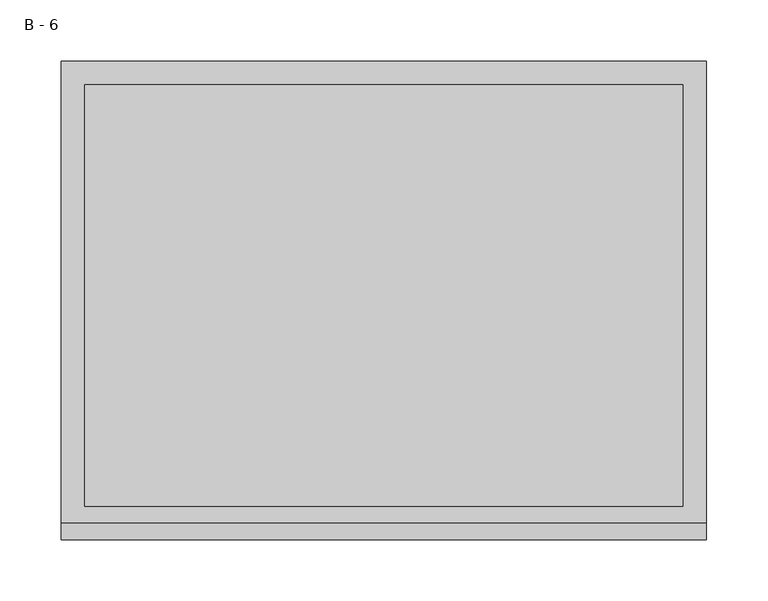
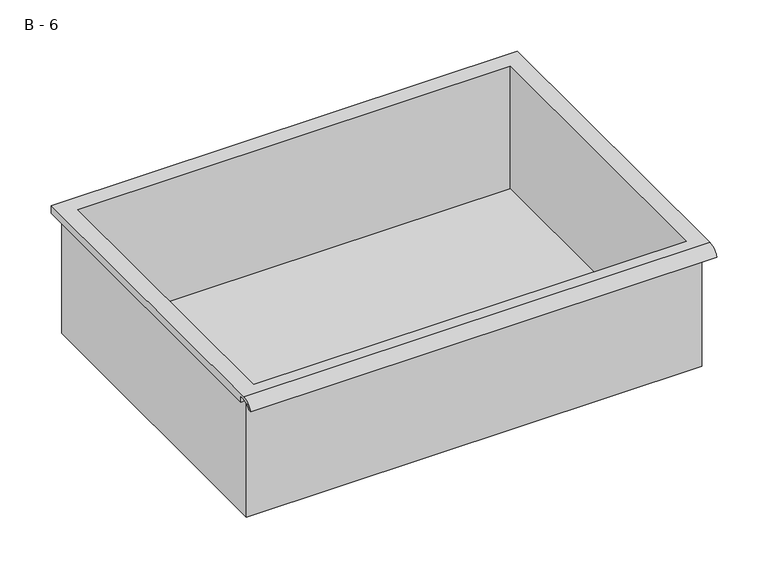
"""IFC4 building model written with IfcOpenShell, lengths in millimetres: furniture geometry, HermanMiller_CoStruc_CO207_Drawer : B - 6."""

from ifc_helpers import new_model, si_unit, frame, origin, place, context, project, spatial, polyline, circle_curve, source, transform, mapped, element, save
from ifc_brep_helpers import plane_surface, cylinder_surface, revolved_surface, advanced_brep


def b_6_bdab6ed6(model_context):
    return source(origin(), model_context, "Body", "AdvancedBrep", [
        advanced_brep(
        [(-257.1076517, -176.2125, 582.6252), (257.2423483, -176.2125, 582.6252), (257.2423483, -176.2125, 722.3252), (263.5923483, -176.2125, 722.3252), (263.5923483, -176.2125, 728.6323341), (-263.4576517, -176.2125, 728.6323341), (-263.4576517, -176.2125, 722.3252), (-257.1076517, -176.2125, 722.3252), (257.2423483, 185.7375, 582.6252), (-257.1076517, 185.7375, 582.6252), (-257.1076517, 185.7375, 722.3252), (257.2423483, 185.7375, 722.3252), (263.5923483, -181.6070544, 731.8502), (263.5923483, 195.2625, 731.8502), (-263.4576517, 195.2625, 731.8502), (-263.4576517, -181.6070544, 731.8502), (244.5423483, -168.275, 731.8502), (-244.4076517, -168.275, 731.8502), (-244.4076517, 176.2125, 731.8502), (244.5423483, 176.2125, 731.8502), (263.5923483, -195.2625, 722.3252), (263.5923483, -191.8280601, 722.3252), (263.5923483, -180.4714815, 728.6323341), (263.5923483, 195.2625, 722.3252), (-263.4576517, 195.2625, 722.3252), (-263.4576517, -180.4714815, 728.6323341), (-263.4576517, -191.8280601, 722.3252), (-263.4576517, -195.2625, 722.3252), (-244.4076517, -168.275, 585.6513719), (244.5423483, -168.275, 585.6513719), (244.5423483, 176.2125, 585.6513719), (-244.4076517, 176.2125, 585.6513719)],
        [
            (0, 1),
            (1, 2),
            (2, 3),
            (3, 4),
            (4, 5),
            (5, 6),
            (6, 7),
            (7, 0),
            (8, 9),
            (9, 10),
            (10, 11),
            (11, 8),
            (0, 9),
            (8, 1),
            (11, 2),
            (12, 13),
            (13, 14),
            (14, 15),
            (15, 12),
            (16, 17),
            (17, 18),
            (18, 19),
            (19, 16),
            (7, 10),
            (12, 20, circle_curve(frame((263.5923483, -181.6070544, 717.2991859), z_axis=(1.0, 0.0, 0.0), x_axis=(0.0, 1.0, 0.0)), 14.5510141)),
            (20, 21),
            (21, 22, circle_curve(frame((263.5923483, -181.6070544, 717.2991859), z_axis=(-1.0, 0.0, 0.0), x_axis=(0.0, 1.0, 0.0)), 11.3898979)),
            (22, 4),
            (3, 23),
            (23, 13),
            (14, 24),
            (24, 6),
            (5, 25),
            (25, 26, circle_curve(frame((-263.4576517, -181.6070544, 717.2991859), z_axis=(1.0, 0.0, 0.0), x_axis=(0.0, 1.0, 0.0)), 11.3898979)),
            (26, 27),
            (27, 15, circle_curve(frame((-263.4576517, -181.6070544, 717.2991859), z_axis=(-1.0, 0.0, 0.0), x_axis=(0.0, 1.0, 0.0)), 14.5510141)),
            (27, 20),
            (26, 21),
            (25, 22),
            (24, 23),
            (28, 29),
            (29, 30),
            (30, 31),
            (31, 28),
            (28, 17),
            (16, 29),
            (19, 30),
            (18, 31),
        ],
        [
            plane_surface(frame((257.2423483, -176.2125, 582.6252), z_axis=(0.0, -1.0, 0.0), x_axis=(1.0, 0.0, 0.0))),
            plane_surface(frame((257.2423483, 185.7375, 582.6252), z_axis=(0.0, 1.0, 0.0), x_axis=(-1.0, 0.0, 0.0))),
            plane_surface(frame((-257.1076517, -176.2125, 582.6252), z_axis=(0.0, 0.0, -1.0), x_axis=(0.0, 1.0, 0.0))),
            plane_surface(frame((257.2423483, -176.2125, 582.6252), z_axis=(1.0, 0.0, 0.0), x_axis=(0.0, 1.0, 0.0))),
            plane_surface(frame((257.2423483, -176.2125, 731.8502), z_axis=(0.0, 0.0, 1.0), x_axis=(0.0, 1.0, 0.0))),
            plane_surface(frame((-257.1076517, -176.2125, 731.8502), z_axis=(-1.0, 0.0, 0.0), x_axis=(0.0, 1.0, 0.0))),
            plane_surface(frame((263.5923483, 195.2625, 731.8502), z_axis=(1.0, 0.0, 0.0), x_axis=(0.0, -1.0, 0.0))),
            plane_surface(frame((-263.4576517, 195.2625, 731.8502), z_axis=(-1.0, 0.0, 0.0), x_axis=(0.0, 1.0, 0.0))),
            cylinder_surface(frame((-263.4576517, -181.6070544, 717.2991859), z_axis=(1.0, 0.0, 0.0), x_axis=(0.0, 1.0, 0.0)), 14.5510141),
            plane_surface(frame((263.5923483, -195.2625, 722.3252), z_axis=(0.0, -7.251821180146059e-12, -1.0), x_axis=(-1.0, 0.0, 0.0))),
            revolved_surface(polyline([(-263.4576517, -170.21715650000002, 717.2991859), (263.59234829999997, -170.21715650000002, 717.2991859)]), (-263.4576517, -181.6070544, 717.2991859), (-1.0, 0.0, 0.0)),
            plane_surface(frame((263.5923483, -180.4714815, 728.6323341), z_axis=(0.0, -1.7956755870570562e-11, -1.0), x_axis=(-1.0, 0.0, 0.0))),
            plane_surface(frame((263.5923483, -176.2125, 722.3252), z_axis=(0.0, 0.0, -1.0), x_axis=(-1.0, 0.0, 0.0))),
            plane_surface(frame((263.5923483, 195.2625, 722.3252), z_axis=(0.0, 1.0, 0.0), x_axis=(-1.0, 0.0, 0.0))),
            plane_surface(frame((244.5423483, -168.275, 585.6513719), z_axis=(0.0, 0.0, 1.0), x_axis=(-1.0, 0.0, 0.0))),
            plane_surface(frame((-244.4076517, -168.275, 731.8502), z_axis=(0.0, 1.0, 0.0), x_axis=(0.0, 0.0, -1.0))),
            plane_surface(frame((244.5423483, -168.275, 731.8502), z_axis=(-1.0, 0.0, 0.0), x_axis=(0.0, 0.0, -1.0))),
            plane_surface(frame((244.5423483, 176.2125, 731.8502), z_axis=(0.0, -1.0, 0.0), x_axis=(0.0, 0.0, -1.0))),
            plane_surface(frame((-244.4076517, 176.2125, 731.8502), z_axis=(1.0, 0.0, 0.0), x_axis=(0.0, 0.0, -1.0))),
        ],
        [
            (0, [[1, 2, 3, 4, 5, 6, 7, 8]]),
            (1, [[9, 10, 11, 12]]),
            (2, [[-1, 13, -9, 14]]),
            (3, [[-14, -12, 15, -2]]),
            (4, [[16, 17, 18, 19], [20, 21, 22, 23]]),
            (5, [[-13, -8, 24, -10]]),
            (6, [[-16, 25, 26, 27, 28, -4, 29, 30]]),
            (7, [[31, 32, -6, 33, 34, 35, 36, -18]]),
            (8, [[-25, -19, -36, 37]]),
            (9, [[-26, -37, -35, 38]]),
            (10, [[-27, -38, -34, 39]]),
            (11, [[-28, -39, -33, -5]]),
            (12, [[-29, -3, -15, -11, -24, -7, -32, 40]]),
            (13, [[-30, -40, -31, -17]]),
            (14, [[41, 42, 43, 44]]),
            (15, [[-41, 45, -20, 46]]),
            (16, [[-42, -46, -23, 47]]),
            (17, [[-43, -47, -22, 48]]),
            (18, [[-44, -48, -21, -45]]),
        ],
    ),
    ])


if __name__ == "__main__":
    model = new_model("IFC4")
    model_context = context("Model", 3, world=origin())
    ifc_project = project(units=[si_unit("LENGTHUNIT", "METRE", prefix="MILLI")], contexts=[model_context])
    site = spatial("IfcSite", under=ifc_project)
    building = spatial("IfcBuilding", under=site)
    placement = place(None, origin())
    b_6_shape = b_6_bdab6ed6(model_context)
    element("IfcFurniture", 1, ObjectType="HermanMiller_CoStruc_CO207_Drawer : B - 6", at=placement, inside=building, context=model_context, shape_type="MappedRepresentation", body=[
        mapped(b_6_shape, transform((0.0, 0.0, 0.0), x_axis=(1.0, 0.0, 0.0), y_axis=(0.0, 1.0, 0.0), z_axis=(0.0, 0.0, 1.0))),
    ])
    save(model, "model.ifc")
